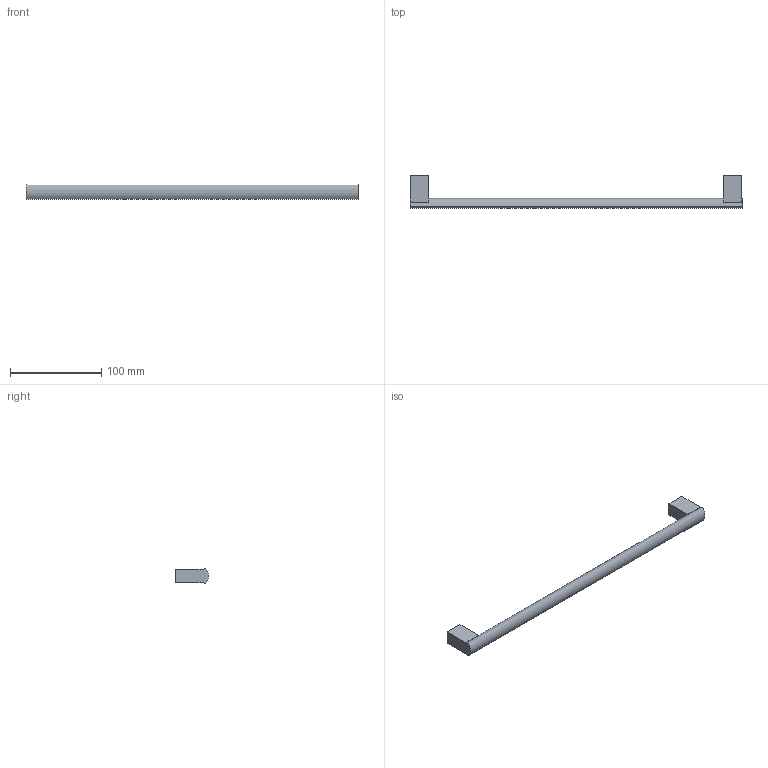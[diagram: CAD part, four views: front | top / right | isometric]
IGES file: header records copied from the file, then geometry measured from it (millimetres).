
Start section: Data from Parasolid IGES Translator 20.0.26, Copyright(c) 2006 Siemens P LM Software. All Rights Reserved.
Global section: file name: 115209.igs; native system: By Siemens PLM Incorporated; preprocessor: XPlus GENERIC/IGES 20.0.26; author: Noname; organization: Noname; date: 20230220.161846; units: millimetre
Bounding box: 364 x 35.96 x 16 mm (x, y, z)
Surface area: 19850 mm2 (no closed solid volume)
Topology: 0 solids, 0 shells, 22 faces, 102 edges, 100 vertices
Faces by surface type: extrusion 17, revolution 5
